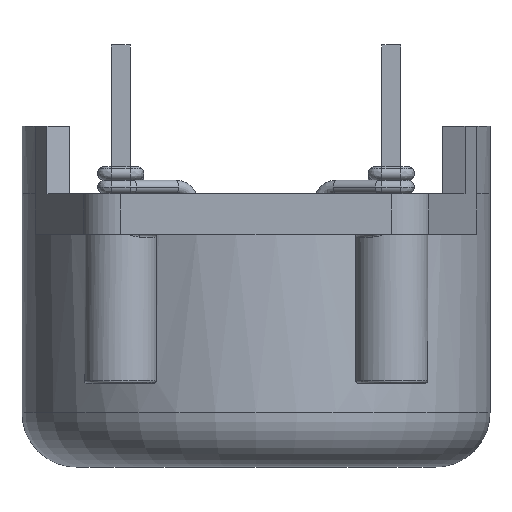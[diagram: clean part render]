
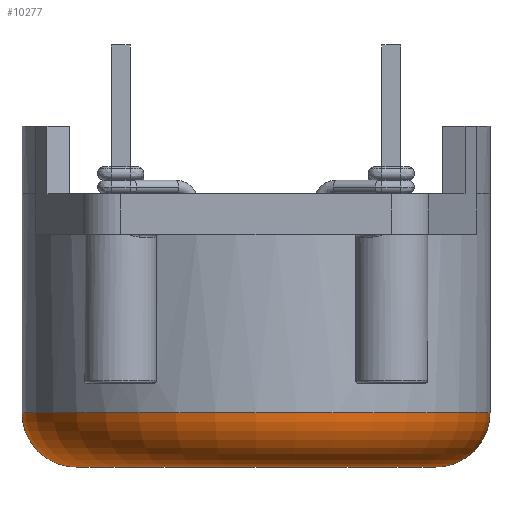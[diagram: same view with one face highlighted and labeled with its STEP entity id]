
A CAD part, front view. The second image highlights one B-rep face of the part: STEP entity #10277.
In plain terms, the highlighted toroidal (fillet/blend) face has major radius 6.65 mm and minor radius 2 mm.
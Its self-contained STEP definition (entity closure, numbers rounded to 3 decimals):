
#1956=CARTESIAN_POINT('',(-6.65,0.,-2.575));
#1957=DIRECTION('',(0.,1.,0.));
#1958=DIRECTION('',(0.,0.,-1.));
#1959=AXIS2_PLACEMENT_3D('',#1956,#1957,#1958);
#1966=CARTESIAN_POINT('',(0.,0.,-4.575));
#1967=DIRECTION('',(0.,0.,-1.));
#1968=DIRECTION('',(1.,0.,0.));
#1969=AXIS2_PLACEMENT_3D('',#1966,#1967,#1968);
#1971=CARTESIAN_POINT('',(6.65,0.,-2.575));
#1972=DIRECTION('',(0.,-1.,0.));
#1973=DIRECTION('',(0.,0.,-1.));
#1974=AXIS2_PLACEMENT_3D('',#1971,#1972,#1973);
#1976=CARTESIAN_POINT('',(0.,0.,-2.575));
#1977=DIRECTION('',(0.,0.,-1.));
#1978=DIRECTION('',(1.,0.,0.));
#1979=AXIS2_PLACEMENT_3D('',#1976,#1977,#1978);
#3659=CARTESIAN_POINT('',(-6.65,0.,-4.575));
#3660=CARTESIAN_POINT('',(6.65,0.,-4.575));
#3661=VERTEX_POINT('',#3659);
#3662=VERTEX_POINT('',#3660);
#3663=CARTESIAN_POINT('',(-8.65,0.,-2.575));
#3664=CARTESIAN_POINT('',(8.65,0.,-2.575));
#3665=VERTEX_POINT('',#3663);
#3666=VERTEX_POINT('',#3664);
#10265=CARTESIAN_POINT('',(0.,0.,-2.575));
#10266=DIRECTION('',(0.,0.,1.));
#10267=DIRECTION('',(1.,0.007,0.));
#10268=AXIS2_PLACEMENT_3D('',#10265,#10266,#10267);
#10269=TOROIDAL_SURFACE('',#10268,6.65,2.);
#10270=ORIENTED_EDGE('',*,*,#10253,.T.);
#10271=ORIENTED_EDGE('',*,*,#10235,.T.);
#10273=ORIENTED_EDGE('',*,*,#10272,.F.);
#10274=ORIENTED_EDGE('',*,*,#10232,.F.);
#10275=EDGE_LOOP('',(#10270,#10271,#10273,#10274));
#10276=FACE_OUTER_BOUND('',#10275,.F.);
#1960=CIRCLE('',#1959,2.);
#1970=CIRCLE('',#1969,6.65);
#1975=CIRCLE('',#1974,2.);
#1980=CIRCLE('',#1979,8.65);
#10232=EDGE_CURVE('',#3662,#3666,#1975,.T.);
#10235=EDGE_CURVE('',#3661,#3665,#1960,.T.);
#10253=EDGE_CURVE('',#3662,#3661,#1970,.T.);
#10272=EDGE_CURVE('',#3666,#3665,#1980,.T.);
#10277=ADVANCED_FACE('',(#10276),#10269,.T.);
